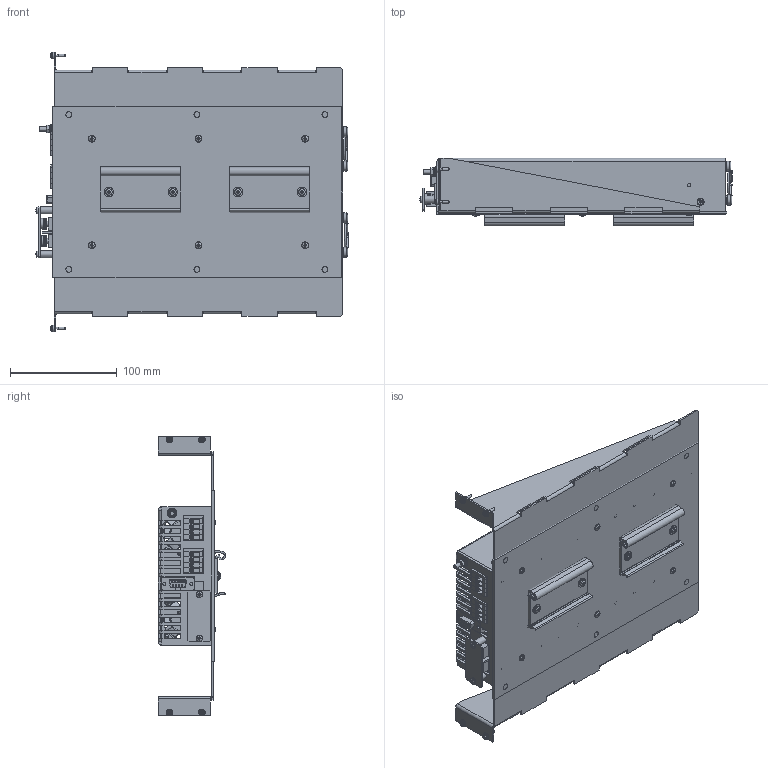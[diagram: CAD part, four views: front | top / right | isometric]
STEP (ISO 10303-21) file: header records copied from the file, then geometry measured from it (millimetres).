
FILE_DESCRIPTION(/* description */ (''),/* implementation_level */ '2;1');
FILE_NAME(/* name */ 'ODS-750_p',/* time_stamp */ '2022-03-07T08:13:11+01:00',/* author */ ('A. Sanz'),/* organization */ ('Premium S.A.'),/* preprocessor_version */ 'ST-DEVELOPER v18.1',/* originating_system */ 'Solid Edge',/* authorisation */ 'Unknown');
FILE_SCHEMA (('TECHNICAL_DATA_PACKAGING','INTEGRATED_CNC_SCHEMA','AUTOMOTIVE_DESIGN {1 0 10303 214 3 1 1}'));
Products named in the file (6): ODS-750_p; ODS-750_Case; ODS-750_PB; NP-9265; NP-9366; NP-9135
Assembly tree (6 placements, depth 2):
  ODS-750_p
    ODS-750_Case
    ODS-750_PB
    NP-9265
    NP-9366
    NP-9135  x2
Bounding box: 292.46 x 63.57 x 262.1 mm (x, y, z)
Volume: 595730.3 mm3; surface area: 619891.7 mm2
Topology: 73 solids, 77 shells, 3839 faces, 10611 edges, 6981 vertices
Faces by surface type: plane 1832, cylinder 859, bspline 727, cone 337, torus 59, sphere 25
Full cylindrical faces by diameter (mm): 0.3 x1, 0.8 x16, 1 x22, 1.2 x36, 1.646 x8, 1.65 x12, 1.9 x4, 2 x1, 2.013 x6, 2.459 x27, 2.5 x6, 3 x53, 3.1 x7, 3.2 x41, 3.242 x5, 3.25 x4, 3.3 x4, 3.5 x18, 3.8 x1, 4 x65, 4.134 x2, 4.2 x1, 4.3 x2, 4.8 x8, 5 x2, 5.3 x4, 5.5 x6, 5.6 x18, 5.9 x1, 6 x15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
Entity records: 147259 total; most frequent: CARTESIAN_POINT 41005, ORIENTED_EDGE 18436, DIRECTION 15965, EDGE_CURVE 9218, VERTEX_POINT 6445, LINE 5439, VECTOR 5439, AXIS2_PLACEMENT_3D 5263
